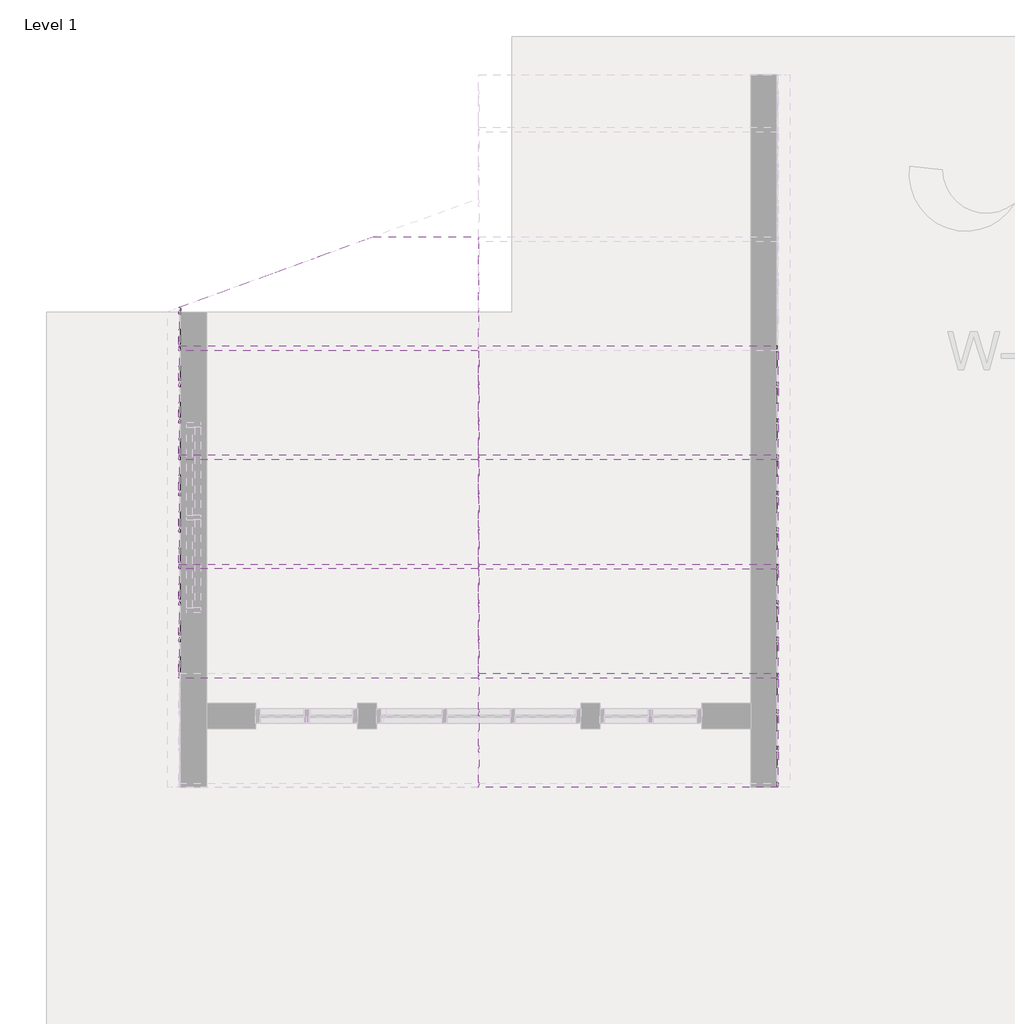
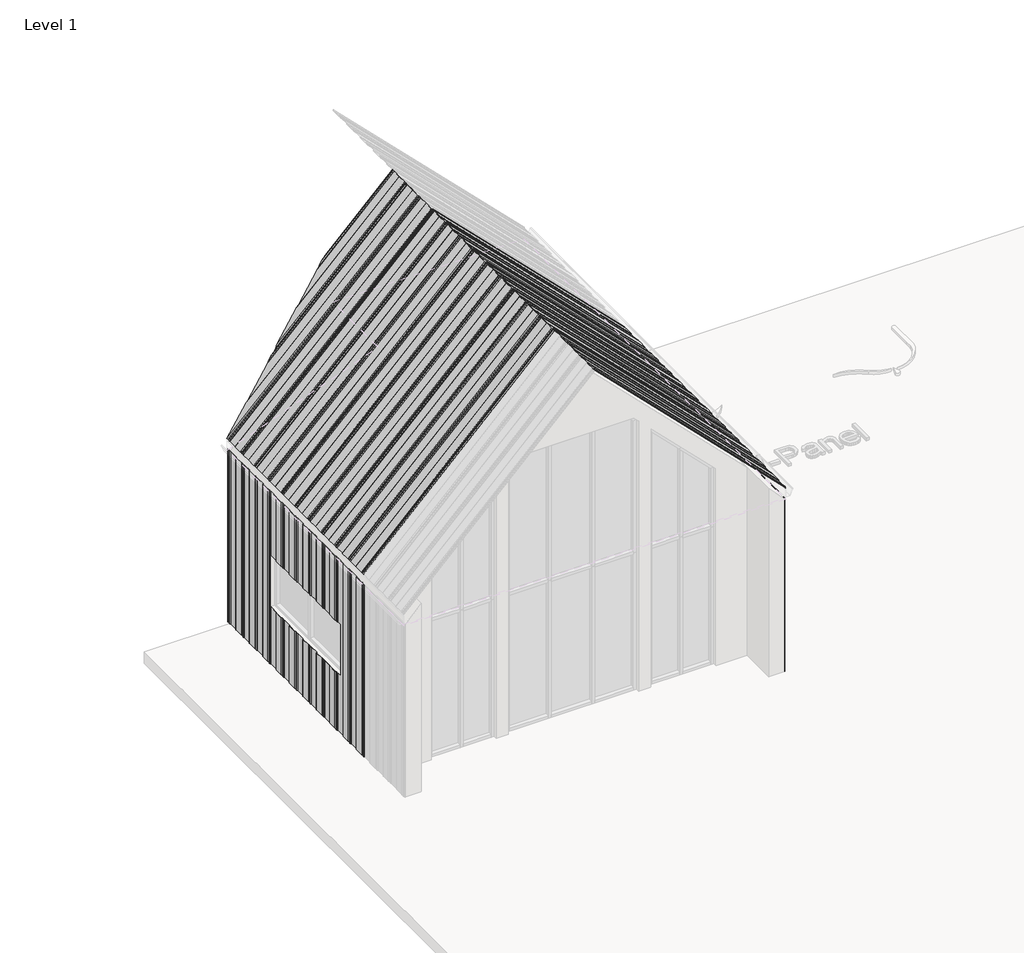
# One storey, part 3 of 9: 16 proxies.
"""IFC4 building model written with IfcOpenShell, lengths in millimetres."""

from ifc_helpers import new_model, si_unit, frame, origin, place, context, project, spatial, polyline, outline, extrude, faceted_brep, transform, mapped, element, save
from components import specialty_equipment_948620e5, specialty_equipment_76631281

model = new_model("IFC4")

# Units and contexts
model_context = context("Model", 3, world=origin())
ifc_project = project(units=[si_unit("LENGTHUNIT", "METRE", prefix="MILLI")], contexts=[model_context])

# Site, building, storey
site = spatial("IfcSite", under=ifc_project)
building = spatial("IfcBuilding", under=site)
storey = spatial("IfcBuildingStorey", under=building, Name="Level 1", Elevation=0.0)

# Proxies
placement = place(None, origin())
element("IfcBuildingElementProxy", 1, Name="AQUAPLAST - W-Panel : RR 32 BRĄZ", ObjectType="AQUAPLAST - W-Panel : RR 32 BRĄZ", at=placement, inside=storey, context=model_context, shape_type="SweptSolid", body=[
    extrude(outline(polyline([(0.0, -586.3438713), (10.0, -576.3438713), (10.0, -554.626294), (0.0, -544.626294), (0.0, -396.0417131), (10.0, -386.0417131), (10.0, -234.3241358), (0.0, -224.3241358), (0.0, -204.3241358), (10.0, -194.3241358), (10.0, -172.6065586), (0.0, -162.6065586), (0.0, -10.920379), (10.0, -0.920379), (10.0, 145.7971982), (0.0, 155.7971982), (0.0, 180.7971982), (10.0, 190.7971982), (10.0, 210.5370534), (0.0, 220.5370534), (0.0, 370.5370534), (10.0, 380.5370534), (10.0, 530.7135982), (0.5, 540.2135982), (0.5, 562.5464217), (10.5, 572.5464217), (10.5, 594.6782125), (4.6782125, 600.5), (5.4643393, 600.2138732), (11.0, 594.6782125), (11.0, 572.5464217), (1.0, 562.5464217), (1.0, 540.420705), (10.5, 530.920705), (10.5, 380.3299466), (0.5, 370.3299466), (0.5, 220.7441601), (10.5, 210.7441601), (10.5, 190.5900914), (0.5, 180.5900914), (0.5, 156.004305), (10.5, 146.004305), (10.5, -1.1274858), (0.5, -11.1274858), (0.5, -162.3994518), (10.5, -172.3994518), (10.5, -194.5312426), (0.5, -204.5312426), (0.5, -224.1170291), (10.5, -234.1170291), (10.5, -386.2488199), (0.5, -396.2488199), (0.5, -544.4191873), (10.5, -554.4191873), (10.5, -576.5509781), (0.5, -586.5509781), (0.5, -599.785926), (0.0, -600.5), (0.0, -586.3438713)])), frame((-2137.063183, 9264.5162138, 3795.9898987), z_axis=(-0.7071067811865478, 0.0, 0.7071067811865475), x_axis=(0.7071067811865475, 0.0, 0.7071067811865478)), (0.0, 0.0, 1.0), 4454.0),
])
element("IfcBuildingElementProxy", 2, Name="AQUAPLAST - W-Panel : RR 32 BRĄZ", ObjectType="AQUAPLAST - W-Panel : RR 32 BRĄZ", at=placement, inside=storey, context=model_context, shape_type="Brep", body=[
    faceted_brep([(-5287.6095796, 14447.2880323, 6945.4435021), (-5287.6095796, 14461.444161, 6945.4435021), (-5287.963133, 14460.730087, 6945.7970555), (-5287.963133, 14447.4951391, 6945.7970555), (-5295.0342008, 14437.4951391, 6952.8681233), (-5295.0342008, 14415.3633483, 6952.8681233), (-5287.963133, 14405.3633483, 6945.7970555), (-5287.963133, 14257.1929809, 6945.7970555), (-5295.0342008, 14247.1929809, 6952.8681233), (-5295.0342008, 14095.0611901, 6952.8681233), (-5287.963133, 14085.0611901, 6945.7970555), (-5287.963133, 14065.4754036, 6945.7970555), (-5295.0342008, 14055.4754036, 6952.8681233), (-5295.0342008, 14033.3436128, 6952.8681233), (-5287.963133, 14023.3436128, 6945.7970555), (-5287.963133, 13872.0716468, 6945.7970555), (-5295.0342008, 13862.0716468, 6952.8681233), (-5295.0342008, 13714.939856, 6952.8681233), (-5287.963133, 13704.939856, 6945.7970555), (-5287.963133, 13680.3540696, 6945.7970555), (-5295.0342008, 13670.3540696, 6952.8681233), (-5295.0342008, 13650.2000009, 6952.8681233), (-5287.963133, 13640.2000009, 6945.7970555), (-5287.963133, 13490.6142144, 6945.7970555), (-5295.0342008, 13480.6142144, 6952.8681233), (-5295.0342008, 13330.023456, 6952.8681233), (-5288.3166864, 13320.523456, 6946.1506089), (-5288.3166864, 13298.3977393, 6946.1506089), (-5295.3877542, 13288.3977393, 6953.2216767), (-5295.3877542, 13266.2659485, 6953.2216767), (-5291.473451, 13260.7302878, 6949.3073735), (-5290.9175754, 13260.444161, 6948.7514979), (-5295.0342008, 13266.2659485, 6952.8681233), (-5295.0342008, 13288.3977393, 6952.8681233), (-5287.963133, 13298.3977393, 6945.7970555), (-5287.963133, 13320.7305628, 6945.7970555), (-5294.6806474, 13330.2305628, 6952.5145699), (-5294.6806474, 13480.4071077, 6952.5145699), (-5287.6095796, 13490.4071077, 6945.4435021), (-5287.6095796, 13640.4071077, 6945.4435021), (-5294.6806474, 13650.4071077, 6952.5145699), (-5294.6806474, 13670.1469628, 6952.5145699), (-5287.6095796, 13680.1469628, 6945.4435021), (-5287.6095796, 13705.1469628, 6945.4435021), (-5294.6806474, 13715.1469628, 6952.5145699), (-5294.6806474, 13861.86454, 6952.5145699), (-5287.6095796, 13871.86454, 6945.4435021), (-5287.6095796, 14023.5507196, 6945.4435021), (-5294.6806474, 14033.5507196, 6952.5145699), (-5294.6806474, 14055.2682968, 6952.5145699), (-5287.6095796, 14065.2682968, 6945.4435021), (-5287.6095796, 14085.2682968, 6945.4435021), (-5294.6806474, 14095.2682968, 6952.5145699), (-5294.6806474, 14246.9858741, 6952.5145699), (-5287.6095796, 14256.9858741, 6945.4435021), (-5287.6095796, 14405.570455, 6945.4435021), (-5294.6806474, 14415.570455, 6952.5145699), (-5294.6806474, 14437.2880323, 6952.5145699), (-8444.1342508, 13715.1469628, 3803.0609665), (-8437.063183, 13705.1469628, 3795.9898987), (-8437.063183, 13680.1469628, 3795.9898987), (-8444.1342508, 13670.1469628, 3803.0609665), (-8444.1342508, 13650.4071077, 3803.0609665), (-8437.063183, 13640.4071077, 3795.9898987), (-8437.063183, 13490.4071077, 3795.9898987), (-8444.1342508, 13480.4071077, 3803.0609665), (-8444.1342508, 13330.2305628, 3803.0609665), (-8437.4167364, 13320.7305628, 3796.3434521), (-8437.4167364, 13298.3977393, 3796.3434521), (-8444.4878042, 13288.3977393, 3803.4145199), (-8444.4878042, 13266.2659485, 3803.4145199), (-8440.3711788, 13260.444161, 3799.2978945), (-8440.9270544, 13260.7302878, 3799.8537701), (-8444.8413576, 13266.2659485, 3803.7680733), (-8444.8413576, 13288.3977393, 3803.7680733), (-8437.7702898, 13298.3977393, 3796.6970055), (-8437.7702898, 13320.523456, 3796.6970055), (-8444.4878042, 13330.023456, 3803.4145199), (-8444.4878042, 13480.6142144, 3803.4145199), (-8437.4167364, 13490.6142144, 3796.3434521), (-8437.4167364, 13640.2000009, 3796.3434521), (-8444.4878042, 13650.2000009, 3803.4145199), (-8444.4878042, 13670.3540696, 3803.4145199), (-8437.4167364, 13680.3540696, 3796.3434521), (-8437.4167364, 13704.939856, 3796.3434521), (-8444.4878042, 13714.939856, 3803.4145199), (-8444.4878042, 13715.1929554, 3803.4145199), (-8444.1342508, 13715.3216383, 3803.0609665), (-6433.0731115, 14447.2880323, 5799.9799703), (-6394.1794674, 14461.444161, 5838.8736144), (-6396.1413696, 14460.730087, 5837.6188189), (-6432.5040903, 14447.4951391, 5801.2560983), (-6459.9788645, 14437.4951391, 5787.9234597), (-6520.78546, 14415.3633483, 5727.1168642), (-6548.2602342, 14405.3633483, 5685.4999544), (-6955.3549728, 14257.1929809, 5278.4052158), (-6982.8297469, 14247.1929809, 5265.0725772), (-7400.808407, 14095.0611901, 4847.0939171), (-7428.2831812, 14085.0611901, 4805.4770073), (-7482.0946872, 14065.4754036, 4751.6655013), (-7509.5694614, 14055.4754036, 4738.3328628), (-7570.3760569, 14033.3436128, 4677.5262672), (-7597.8508311, 14023.3436128, 4635.9093574), (-8013.4671419, 13872.0716468, 4220.2930467), (-8040.9419161, 13862.0716468, 4206.9604081), (-8041.5109373, 13861.86454, 4205.6842801), (-8014.0361631, 13871.86454, 4219.0169187), (-7597.2818099, 14023.5507196, 4635.7712718), (-7569.8070357, 14033.5507196, 4677.3881817), (-7510.1384826, 14055.2682968, 4737.0567348), (-7482.6637084, 14065.2682968, 4750.3893734), (-7427.71416, 14085.2682968, 4805.3389218), (-7400.2393858, 14095.2682968, 4846.9558316), (-6983.3987682, 14246.9858741, 5263.7964492), (-6955.923994, 14256.9858741, 5277.1290878), (-6547.691213, 14405.570455, 5685.3618688), (-6520.2164388, 14415.570455, 5726.9787786), (-6460.5478857, 14437.2880323, 5786.6473317)], [[[0, 1, 2, 3, 4, 5, 6, 7, 8, 9, 10, 11, 12, 13, 14, 15, 16, 17, 18, 19, 20, 21, 22, 23, 24, 25, 26, 27, 28, 29, 30, 31, 32, 33, 34, 35, 36, 37, 38, 39, 40, 41, 42, 43, 44, 45, 46, 47, 48, 49, 50, 51, 52, 53, 54, 55, 56, 57]], [[58, 59, 60, 61, 62, 63, 64, 65, 66, 67, 68, 69, 70, 71, 72, 73, 74, 75, 76, 77, 78, 79, 80, 81, 82, 83, 84, 85, 86, 87]], [[1, 0, 88, 89]], [[2, 1, 89, 90]], [[3, 2, 90, 91]], [[4, 3, 91, 92]], [[5, 4, 92, 93]], [[6, 5, 93, 94]], [[7, 6, 94, 95]], [[8, 7, 95, 96]], [[9, 8, 96, 97]], [[10, 9, 97, 98]], [[11, 10, 98, 99]], [[12, 11, 99, 100]], [[13, 12, 100, 101]], [[14, 13, 101, 102]], [[15, 14, 102, 103]], [[16, 15, 103, 104]], [[17, 16, 104, 86, 85]], [[18, 17, 85, 84]], [[19, 18, 84, 83]], [[20, 19, 83, 82]], [[21, 20, 82, 81]], [[22, 21, 81, 80]], [[23, 22, 80, 79]], [[24, 23, 79, 78]], [[25, 24, 78, 77]], [[26, 25, 77, 76]], [[27, 26, 76, 75]], [[28, 27, 75, 74]], [[29, 28, 74, 73]], [[30, 29, 73, 72]], [[31, 30, 72, 71]], [[32, 31, 71, 70]], [[33, 32, 70, 69]], [[34, 33, 69, 68]], [[35, 34, 68, 67]], [[36, 35, 67, 66]], [[37, 36, 66, 65]], [[38, 37, 65, 64]], [[39, 38, 64, 63]], [[40, 39, 63, 62]], [[41, 40, 62, 61]], [[42, 41, 61, 60]], [[43, 42, 60, 59]], [[44, 43, 59, 58]], [[45, 44, 58, 87, 105]], [[46, 45, 105, 106]], [[47, 46, 106, 107]], [[48, 47, 107, 108]], [[49, 48, 108, 109]], [[50, 49, 109, 110]], [[51, 50, 110, 111]], [[52, 51, 111, 112]], [[53, 52, 112, 113]], [[54, 53, 113, 114]], [[55, 54, 114, 115]], [[56, 55, 115, 116]], [[57, 56, 116, 117]], [[0, 57, 117, 88]], [[87, 86, 104, 103, 102, 101, 100, 99, 98, 97, 96, 95, 94, 93, 92, 91, 90, 89, 88, 117, 116, 115, 114, 113, 112, 111, 110, 109, 108, 107, 106, 105]]]),
])
element("IfcBuildingElementProxy", 3, Name="AQUAPLAST - W-Panel : RR 32 BRĄZ", ObjectType="AQUAPLAST - W-Panel : RR 32 BRĄZ", at=placement, inside=storey, context=model_context, shape_type="SweptSolid", body=[
    extrude(outline(polyline([(0.0, -586.3438713), (10.0, -576.3438713), (10.0, -554.626294), (0.0, -544.626294), (0.0, -396.0417131), (10.0, -386.0417131), (10.0, -234.3241358), (0.0, -224.3241358), (0.0, -204.3241358), (10.0, -194.3241358), (10.0, -172.6065586), (0.0, -162.6065586), (0.0, -10.920379), (10.0, -0.920379), (10.0, 145.7971982), (0.0, 155.7971982), (0.0, 180.7971982), (10.0, 190.7971982), (10.0, 210.5370534), (0.0, 220.5370534), (0.0, 370.5370534), (10.0, 380.5370534), (10.0, 530.7135982), (0.5, 540.2135982), (0.5, 562.5464217), (10.5, 572.5464217), (10.5, 594.6782125), (4.6782125, 600.5), (5.4643393, 600.2138732), (11.0, 594.6782125), (11.0, 572.5464217), (1.0, 562.5464217), (1.0, 540.420705), (10.5, 530.920705), (10.5, 380.3299466), (0.5, 370.3299466), (0.5, 220.7441601), (10.5, 210.7441601), (10.5, 190.5900914), (0.5, 180.5900914), (0.5, 156.004305), (10.5, 146.004305), (10.5, -1.1274858), (0.5, -11.1274858), (0.5, -162.3994518), (10.5, -172.3994518), (10.5, -194.5312426), (0.5, -204.5312426), (0.5, -224.1170291), (10.5, -234.1170291), (10.5, -386.2488199), (0.5, -396.2488199), (0.5, -544.4191873), (10.5, -554.4191873), (10.5, -576.5509781), (0.5, -586.5509781), (0.5, -599.785926), (0.0, -600.5), (0.0, -586.3438713)])), frame((-2137.063183, 10413.5162138, 3795.9898987), z_axis=(-0.7071067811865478, 0.0, 0.7071067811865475), x_axis=(0.7071067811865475, 0.0, 0.7071067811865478)), (0.0, 0.0, 1.0), 4454.0),
])
element("IfcBuildingElementProxy", 4, Name="AQUAPLAST - W-Panel : RR 32 BRĄZ", ObjectType="AQUAPLAST - W-Panel : RR 32 BRĄZ", at=placement, inside=storey, context=model_context, shape_type="SweptSolid", body=[
    extrude(outline(polyline([(0.0, -586.3438713), (10.0, -576.3438713), (10.0, -554.626294), (0.0, -544.626294), (0.0, -396.0417131), (10.0, -386.0417131), (10.0, -234.3241358), (0.0, -224.3241358), (0.0, -204.3241358), (10.0, -194.3241358), (10.0, -172.6065586), (0.0, -162.6065586), (0.0, -10.920379), (10.0, -0.920379), (10.0, 145.7971982), (0.0, 155.7971982), (0.0, 180.7971982), (10.0, 190.7971982), (10.0, 210.5370534), (0.0, 220.5370534), (0.0, 370.5370534), (10.0, 380.5370534), (10.0, 530.7135982), (0.5, 540.2135982), (0.5, 562.5464217), (10.5, 572.5464217), (10.5, 594.6782125), (4.6782125, 600.5), (5.4643393, 600.2138732), (11.0, 594.6782125), (11.0, 572.5464217), (1.0, 562.5464217), (1.0, 540.420705), (10.5, 530.920705), (10.5, 380.3299466), (0.5, 370.3299466), (0.5, 220.7441601), (10.5, 210.7441601), (10.5, 190.5900914), (0.5, 180.5900914), (0.5, 156.004305), (10.5, 146.004305), (10.5, -1.1274858), (0.5, -11.1274858), (0.5, -162.3994518), (10.5, -172.3994518), (10.5, -194.5312426), (0.5, -204.5312426), (0.5, -224.1170291), (10.5, -234.1170291), (10.5, -386.2488199), (0.5, -396.2488199), (0.5, -544.4191873), (10.5, -554.4191873), (10.5, -576.5509781), (0.5, -586.5509781), (0.5, -599.785926), (0.0, -600.5), (0.0, -586.3438713)])), frame((-2137.063183, 11562.5162138, 3795.9898987), z_axis=(-0.7071067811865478, 0.0, 0.7071067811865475), x_axis=(0.7071067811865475, 0.0, 0.7071067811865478)), (0.0, 0.0, 1.0), 4454.0),
])
element("IfcBuildingElementProxy", 5, Name="AQUAPLAST - W-Panel : RR 32 BRĄZ", ObjectType="AQUAPLAST - W-Panel : RR 32 BRĄZ", at=placement, inside=storey, context=model_context, shape_type="SweptSolid", body=[
    extrude(outline(polyline([(0.0, -586.3438713), (10.0, -576.3438713), (10.0, -554.626294), (0.0, -544.626294), (0.0, -396.0417131), (10.0, -386.0417131), (10.0, -234.3241358), (0.0, -224.3241358), (0.0, -204.3241358), (10.0, -194.3241358), (10.0, -172.6065586), (0.0, -162.6065586), (0.0, -10.920379), (10.0, -0.920379), (10.0, 145.7971982), (0.0, 155.7971982), (0.0, 180.7971982), (10.0, 190.7971982), (10.0, 210.5370534), (0.0, 220.5370534), (0.0, 370.5370534), (10.0, 380.5370534), (10.0, 530.7135982), (0.5, 540.2135982), (0.5, 562.5464217), (10.5, 572.5464217), (10.5, 594.6782125), (4.6782125, 600.5), (5.4643393, 600.2138732), (11.0, 594.6782125), (11.0, 572.5464217), (1.0, 562.5464217), (1.0, 540.420705), (10.5, 530.920705), (10.5, 380.3299466), (0.5, 370.3299466), (0.5, 220.7441601), (10.5, 210.7441601), (10.5, 190.5900914), (0.5, 180.5900914), (0.5, 156.004305), (10.5, 146.004305), (10.5, -1.1274858), (0.5, -11.1274858), (0.5, -162.3994518), (10.5, -172.3994518), (10.5, -194.5312426), (0.5, -204.5312426), (0.5, -224.1170291), (10.5, -234.1170291), (10.5, -386.2488199), (0.5, -396.2488199), (0.5, -544.4191873), (10.5, -554.4191873), (10.5, -576.5509781), (0.5, -586.5509781), (0.5, -599.785926), (0.0, -600.5), (0.0, -586.3438713)])), frame((-2137.063183, 12711.5162138, 3795.9898987), z_axis=(-0.7071067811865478, 0.0, 0.7071067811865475), x_axis=(0.7071067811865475, 0.0, 0.7071067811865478)), (0.0, 0.0, 1.0), 4454.0),
])
element("IfcBuildingElementProxy", 6, Name="AQUAPLAST - W-Panel : RR 887 CZEKOLADOWY BRĄZ", ObjectType="AQUAPLAST - W-Panel : RR 887 CZEKOLADOWY BRĄZ", at=placement, inside=storey, context=model_context, shape_type="Brep", body=[
    faceted_brep([(-8422.063183, 11000.574159, 3613.0), (-8422.063183, 11014.7302878, 3613.0), (-8422.563183, 11014.0162138, 3613.0), (-8422.563183, 11000.7812658, 3613.0), (-8432.563183, 10990.7812658, 3613.0), (-8432.563183, 10968.649475, 3613.0), (-8422.563183, 10958.649475, 3613.0), (-8422.563183, 10810.4791076, 3613.0), (-8432.563183, 10800.4791076, 3613.0), (-8432.563183, 10648.3473168, 3613.0), (-8422.563183, 10638.3473168, 3613.0), (-8422.563183, 10618.7615304, 3613.0), (-8432.563183, 10608.7615304, 3613.0), (-8432.563183, 10586.6297395, 3613.0), (-8422.563183, 10576.6297395, 3613.0), (-8422.563183, 10425.3577735, 3613.0), (-8432.563183, 10415.3577735, 3613.0), (-8432.563183, 10268.2259827, 3613.0), (-8422.563183, 10258.2259827, 3613.0), (-8422.563183, 10233.6401963, 3613.0), (-8432.563183, 10223.6401963, 3613.0), (-8432.563183, 10203.4861276, 3613.0), (-8422.563183, 10193.4861276, 3613.0), (-8422.563183, 10043.9003412, 3613.0), (-8432.563183, 10033.9003412, 3613.0), (-8432.563183, 9883.3095827, 3613.0), (-8423.063183, 9873.8095827, 3613.0), (-8423.063183, 9851.6838661, 3613.0), (-8433.063183, 9841.6838661, 3613.0), (-8433.063183, 9819.5520752, 3613.0), (-8427.5275223, 9814.0164145, 3613.0), (-8426.7413956, 9813.7302878, 3613.0), (-8432.563183, 9819.5520752, 3613.0), (-8432.563183, 9841.6838661, 3613.0), (-8422.563183, 9851.6838661, 3613.0), (-8422.563183, 9874.0166895, 3613.0), (-8432.063183, 9883.5166895, 3613.0), (-8432.063183, 10033.6932344, 3613.0), (-8422.063183, 10043.6932344, 3613.0), (-8422.063183, 10193.6932344, 3613.0), (-8432.063183, 10203.6932344, 3613.0), (-8432.063183, 10223.4330895, 3613.0), (-8422.063183, 10233.4330895, 3613.0), (-8422.063183, 10258.4330895, 3613.0), (-8432.063183, 10268.4330895, 3613.0), (-8432.063183, 10415.1506668, 3613.0), (-8422.063183, 10425.1506668, 3613.0), (-8422.063183, 10576.8368463, 3613.0), (-8432.063183, 10586.8368463, 3613.0), (-8432.063183, 10608.5544236, 3613.0), (-8422.063183, 10618.5544236, 3613.0), (-8422.063183, 10638.5544236, 3613.0), (-8432.063183, 10648.5544236, 3613.0), (-8432.063183, 10800.2720008, 3613.0), (-8422.063183, 10810.2720008, 3613.0), (-8422.063183, 10958.8565818, 3613.0), (-8432.063183, 10968.8565818, 3613.0), (-8432.063183, 10990.574159, 3613.0), (-8422.063183, 11000.574159, 600.0), (-8432.063183, 10990.574159, 600.0), (-8432.063183, 10968.8565818, 600.0), (-8422.063183, 10958.8565818, 600.0), (-8422.063183, 10810.2720008, 600.0), (-8432.063183, 10800.2720008, 600.0), (-8432.063183, 10648.5544236, 600.0), (-8422.063183, 10638.5544236, 600.0), (-8422.063183, 10618.5544236, 600.0), (-8432.063183, 10608.5544236, 600.0), (-8432.063183, 10586.8368463, 600.0), (-8422.063183, 10576.8368463, 600.0), (-8422.063183, 10425.1506668, 600.0), (-8432.063183, 10415.1506668, 600.0), (-8432.063183, 10268.4330895, 600.0), (-8422.063183, 10258.4330895, 600.0), (-8422.063183, 10233.4330895, 600.0), (-8432.063183, 10223.4330895, 600.0), (-8432.063183, 10203.6932344, 600.0), (-8422.063183, 10193.6932344, 600.0), (-8422.063183, 10043.6932344, 600.0), (-8432.063183, 10033.6932344, 600.0), (-8432.063183, 9883.5166895, 600.0), (-8422.563183, 9874.0166895, 600.0), (-8422.563183, 9851.6838661, 600.0), (-8432.563183, 9841.6838661, 600.0), (-8432.563183, 9819.5520752, 600.0), (-8426.7413956, 9813.7302878, 600.0), (-8427.5275223, 9814.0164145, 600.0), (-8433.063183, 9819.5520752, 600.0), (-8433.063183, 9841.6838661, 600.0), (-8423.063183, 9851.6838661, 600.0), (-8423.063183, 9873.8095827, 600.0), (-8432.563183, 9883.3095827, 600.0), (-8432.563183, 10033.9003412, 600.0), (-8422.563183, 10043.9003412, 600.0), (-8422.563183, 10193.4861276, 600.0), (-8432.563183, 10203.4861276, 600.0), (-8432.563183, 10223.6401963, 600.0), (-8422.563183, 10233.6401963, 600.0), (-8422.563183, 10258.2259827, 600.0), (-8432.563183, 10268.2259827, 600.0), (-8432.563183, 10415.3577735, 600.0), (-8422.563183, 10425.3577735, 600.0), (-8422.563183, 10576.6297395, 600.0), (-8432.563183, 10586.6297395, 600.0), (-8432.563183, 10608.7615304, 600.0), (-8422.563183, 10618.7615304, 600.0), (-8422.563183, 10638.3473168, 600.0), (-8432.563183, 10648.3473168, 600.0), (-8432.563183, 10800.4791076, 600.0), (-8422.563183, 10810.4791076, 600.0), (-8422.563183, 10958.649475, 600.0), (-8432.563183, 10968.649475, 600.0), (-8432.563183, 10990.7812658, 600.0), (-8422.563183, 11000.7812658, 600.0), (-8422.563183, 11014.0162138, 600.0), (-8422.063183, 11014.7302878, 600.0), (-8422.063183, 11000.574159, 2498.0), (-8422.063183, 11014.7302878, 2498.0), (-8422.063183, 11014.7302878, 1598.0), (-8422.063183, 11000.574159, 1598.0), (-8422.563183, 11014.0162138, 2498.0), (-8422.563183, 11014.0162138, 1598.0), (-8422.563183, 11000.7812658, 2498.0), (-8422.563183, 11000.7812658, 1598.0), (-8432.563183, 10990.7812658, 2498.0), (-8432.563183, 10990.7812658, 1598.0), (-8432.563183, 10968.649475, 2498.0), (-8432.563183, 10968.649475, 1598.0), (-8422.563183, 10958.649475, 2498.0), (-8422.563183, 10958.649475, 1598.0), (-8422.563183, 10810.4791076, 2498.0), (-8422.563183, 10810.4791076, 1598.0), (-8432.563183, 10800.4791076, 2498.0), (-8432.563183, 10800.4791076, 1598.0), (-8432.563183, 10648.3473168, 2498.0), (-8432.563183, 10648.3473168, 1598.0), (-8422.563183, 10638.3473168, 2498.0), (-8422.563183, 10638.3473168, 1598.0), (-8422.563183, 10618.7615304, 2498.0), (-8422.563183, 10618.7615304, 1598.0), (-8432.563183, 10608.7615304, 2498.0), (-8432.563183, 10608.7615304, 1598.0), (-8432.563183, 10586.6297395, 2498.0), (-8432.563183, 10586.6297395, 1598.0), (-8422.563183, 10576.6297395, 2498.0), (-8422.563183, 10576.6297395, 1598.0), (-8422.563183, 10504.7302878, 2498.0), (-8422.563183, 10504.7302878, 1598.0), (-8422.063183, 10576.8368463, 1598.0), (-8422.063183, 10504.7302878, 1598.0), (-8422.063183, 10504.7302878, 2498.0), (-8422.063183, 10576.8368463, 2498.0), (-8432.063183, 10586.8368463, 2498.0), (-8432.063183, 10586.8368463, 1598.0), (-8432.063183, 10608.5544236, 2498.0), (-8432.063183, 10608.5544236, 1598.0), (-8422.063183, 10618.5544236, 2498.0), (-8422.063183, 10618.5544236, 1598.0), (-8422.063183, 10638.5544236, 2498.0), (-8422.063183, 10638.5544236, 1598.0), (-8432.063183, 10648.5544236, 2498.0), (-8432.063183, 10648.5544236, 1598.0), (-8432.063183, 10800.2720008, 2498.0), (-8432.063183, 10800.2720008, 1598.0), (-8422.063183, 10810.2720008, 2498.0), (-8422.063183, 10810.2720008, 1598.0), (-8422.063183, 10958.8565818, 2498.0), (-8422.063183, 10958.8565818, 1598.0), (-8432.063183, 10968.8565818, 2498.0), (-8432.063183, 10968.8565818, 1598.0), (-8432.063183, 10990.574159, 2498.0), (-8432.063183, 10990.574159, 1598.0)], [[[0, 1, 2, 3, 4, 5, 6, 7, 8, 9, 10, 11, 12, 13, 14, 15, 16, 17, 18, 19, 20, 21, 22, 23, 24, 25, 26, 27, 28, 29, 30, 31, 32, 33, 34, 35, 36, 37, 38, 39, 40, 41, 42, 43, 44, 45, 46, 47, 48, 49, 50, 51, 52, 53, 54, 55, 56, 57]], [[58, 59, 60, 61, 62, 63, 64, 65, 66, 67, 68, 69, 70, 71, 72, 73, 74, 75, 76, 77, 78, 79, 80, 81, 82, 83, 84, 85, 86, 87, 88, 89, 90, 91, 92, 93, 94, 95, 96, 97, 98, 99, 100, 101, 102, 103, 104, 105, 106, 107, 108, 109, 110, 111, 112, 113, 114, 115]], [[1, 0, 116, 117]], [[58, 115, 118, 119]], [[2, 1, 117, 120]], [[115, 114, 121, 118]], [[3, 2, 120, 122]], [[114, 113, 123, 121]], [[4, 3, 122, 124]], [[113, 112, 125, 123]], [[5, 4, 124, 126]], [[112, 111, 127, 125]], [[6, 5, 126, 128]], [[111, 110, 129, 127]], [[7, 6, 128, 130]], [[110, 109, 131, 129]], [[8, 7, 130, 132]], [[109, 108, 133, 131]], [[9, 8, 132, 134]], [[108, 107, 135, 133]], [[10, 9, 134, 136]], [[107, 106, 137, 135]], [[11, 10, 136, 138]], [[106, 105, 139, 137]], [[12, 11, 138, 140]], [[105, 104, 141, 139]], [[13, 12, 140, 142]], [[104, 103, 143, 141]], [[14, 13, 142, 144]], [[103, 102, 145, 143]], [[15, 14, 144, 146, 147, 145, 102, 101]], [[16, 15, 101, 100]], [[17, 16, 100, 99]], [[18, 17, 99, 98]], [[19, 18, 98, 97]], [[20, 19, 97, 96]], [[21, 20, 96, 95]], [[22, 21, 95, 94]], [[23, 22, 94, 93]], [[24, 23, 93, 92]], [[25, 24, 92, 91]], [[26, 25, 91, 90]], [[27, 26, 90, 89]], [[28, 27, 89, 88]], [[29, 28, 88, 87]], [[30, 29, 87, 86]], [[31, 30, 86, 85]], [[32, 31, 85, 84]], [[33, 32, 84, 83]], [[34, 33, 83, 82]], [[35, 34, 82, 81]], [[36, 35, 81, 80]], [[37, 36, 80, 79]], [[38, 37, 79, 78]], [[39, 38, 78, 77]], [[40, 39, 77, 76]], [[41, 40, 76, 75]], [[42, 41, 75, 74]], [[43, 42, 74, 73]], [[44, 43, 73, 72]], [[45, 44, 72, 71]], [[46, 45, 71, 70]], [[47, 46, 70, 69, 148, 149, 150, 151]], [[48, 47, 151, 152]], [[69, 68, 153, 148]], [[49, 48, 152, 154]], [[68, 67, 155, 153]], [[50, 49, 154, 156]], [[67, 66, 157, 155]], [[51, 50, 156, 158]], [[66, 65, 159, 157]], [[52, 51, 158, 160]], [[65, 64, 161, 159]], [[53, 52, 160, 162]], [[64, 63, 163, 161]], [[54, 53, 162, 164]], [[63, 62, 165, 163]], [[55, 54, 164, 166]], [[62, 61, 167, 165]], [[56, 55, 166, 168]], [[61, 60, 169, 167]], [[57, 56, 168, 170]], [[60, 59, 171, 169]], [[0, 57, 170, 116]], [[59, 58, 119, 171]], [[150, 146, 144, 142, 140, 138, 136, 134, 132, 130, 128, 126, 124, 122, 120, 117, 116, 170, 168, 166, 164, 162, 160, 158, 156, 154, 152, 151]], [[146, 150, 149, 147]], [[147, 149, 148, 153, 155, 157, 159, 161, 163, 165, 167, 169, 171, 119, 118, 121, 123, 125, 127, 129, 131, 133, 135, 137, 139, 141, 143, 145]]]),
])
element("IfcBuildingElementProxy", 7, Name="AQUAPLAST - W-Panel : RR 887 CZEKOLADOWY BRĄZ", ObjectType="AQUAPLAST - W-Panel : RR 887 CZEKOLADOWY BRĄZ", at=placement, inside=storey, context=model_context, shape_type="SweptSolid", body=[
    extrude(outline(polyline([(-8422.063183, 12163.7302878), (-8422.063183, 12149.574159), (-8432.063183, 12139.574159), (-8432.063183, 12117.8565818), (-8422.063183, 12107.8565818), (-8422.063183, 11959.2720008), (-8432.063183, 11949.2720008), (-8432.063183, 11797.5544236), (-8422.063183, 11787.5544236), (-8422.063183, 11767.5544236), (-8432.063183, 11757.5544236), (-8432.063183, 11735.8368463), (-8422.063183, 11725.8368463), (-8422.063183, 11574.1506668), (-8432.063183, 11564.1506668), (-8432.063183, 11417.4330895), (-8422.063183, 11407.4330895), (-8422.063183, 11382.4330895), (-8432.063183, 11372.4330895), (-8432.063183, 11352.6932344), (-8422.063183, 11342.6932344), (-8422.063183, 11192.6932344), (-8432.063183, 11182.6932344), (-8432.063183, 11032.5166895), (-8422.563183, 11023.0166895), (-8422.563183, 11000.6838661), (-8432.563183, 10990.6838661), (-8432.563183, 10968.5520752), (-8426.7413956, 10962.7302878), (-8427.5275223, 10963.0164145), (-8433.063183, 10968.5520752), (-8433.063183, 10990.6838661), (-8423.063183, 11000.6838661), (-8423.063183, 11022.8095827), (-8432.563183, 11032.3095827), (-8432.563183, 11182.9003412), (-8422.563183, 11192.9003412), (-8422.563183, 11342.4861276), (-8432.563183, 11352.4861276), (-8432.563183, 11372.6401963), (-8422.563183, 11382.6401963), (-8422.563183, 11407.2259827), (-8432.563183, 11417.2259827), (-8432.563183, 11564.3577735), (-8422.563183, 11574.3577735), (-8422.563183, 11725.6297395), (-8432.563183, 11735.6297395), (-8432.563183, 11757.7615304), (-8422.563183, 11767.7615304), (-8422.563183, 11787.3473168), (-8432.563183, 11797.3473168), (-8432.563183, 11949.4791076), (-8422.563183, 11959.4791076), (-8422.563183, 12107.649475), (-8432.563183, 12117.649475), (-8432.563183, 12139.7812658), (-8422.563183, 12149.7812658), (-8422.563183, 12163.0162138), (-8422.063183, 12163.7302878)])), frame((0.0, 0.0, 2498.0), z_axis=(0.0, 0.0, 1.0), x_axis=(1.0, 0.0, 0.0)), (0.0, 0.0, 1.0), 1115.0),
    extrude(outline(polyline([(-8422.063183, 12149.574159), (-8432.063183, 12139.574159), (-8432.063183, 12117.8565818), (-8422.063183, 12107.8565818), (-8422.063183, 11959.2720008), (-8432.063183, 11949.2720008), (-8432.063183, 11797.5544236), (-8422.063183, 11787.5544236), (-8422.063183, 11767.5544236), (-8432.063183, 11757.5544236), (-8432.063183, 11735.8368463), (-8422.063183, 11725.8368463), (-8422.063183, 11574.1506668), (-8432.063183, 11564.1506668), (-8432.063183, 11417.4330895), (-8422.063183, 11407.4330895), (-8422.063183, 11382.4330895), (-8432.063183, 11372.4330895), (-8432.063183, 11352.6932344), (-8422.063183, 11342.6932344), (-8422.063183, 11192.6932344), (-8432.063183, 11182.6932344), (-8432.063183, 11032.5166895), (-8422.563183, 11023.0166895), (-8422.563183, 11000.6838661), (-8432.563183, 10990.6838661), (-8432.563183, 10968.5520752), (-8426.7413956, 10962.7302878), (-8427.5275223, 10963.0164145), (-8433.063183, 10968.5520752), (-8433.063183, 10990.6838661), (-8423.063183, 11000.6838661), (-8423.063183, 11022.8095827), (-8432.563183, 11032.3095827), (-8432.563183, 11182.9003412), (-8422.563183, 11192.9003412), (-8422.563183, 11342.4861276), (-8432.563183, 11352.4861276), (-8432.563183, 11372.6401963), (-8422.563183, 11382.6401963), (-8422.563183, 11407.2259827), (-8432.563183, 11417.2259827), (-8432.563183, 11564.3577735), (-8422.563183, 11574.3577735), (-8422.563183, 11725.6297395), (-8432.563183, 11735.6297395), (-8432.563183, 11757.7615304), (-8422.563183, 11767.7615304), (-8422.563183, 11787.3473168), (-8432.563183, 11797.3473168), (-8432.563183, 11949.4791076), (-8422.563183, 11959.4791076), (-8422.563183, 12107.649475), (-8432.563183, 12117.649475), (-8432.563183, 12139.7812658), (-8422.563183, 12149.7812658), (-8422.563183, 12163.0162138), (-8422.063183, 12163.7302878), (-8422.063183, 12149.574159)])), frame((0.0, 0.0, 600.0), z_axis=(0.0, 0.0, 1.0), x_axis=(1.0, 0.0, 0.0)), (0.0, 0.0, 1.0), 998.0),
])
element("IfcBuildingElementProxy", 8, Name="AQUAPLAST - W-Panel : RR 887 CZEKOLADOWY BRĄZ", ObjectType="AQUAPLAST - W-Panel : RR 887 CZEKOLADOWY BRĄZ", at=placement, inside=storey, context=model_context, shape_type="Brep", body=[
    faceted_brep([(-8422.063183, 13298.574159, 3613.0), (-8422.063183, 13312.7302878, 3613.0), (-8422.563183, 13312.0162138, 3613.0), (-8422.563183, 13298.7812658, 3613.0), (-8432.563183, 13288.7812658, 3613.0), (-8432.563183, 13266.649475, 3613.0), (-8422.563183, 13256.649475, 3613.0), (-8422.563183, 13108.4791076, 3613.0), (-8432.563183, 13098.4791076, 3613.0), (-8432.563183, 12946.3473168, 3613.0), (-8422.563183, 12936.3473168, 3613.0), (-8422.563183, 12916.7615304, 3613.0), (-8432.563183, 12906.7615304, 3613.0), (-8432.563183, 12884.6297395, 3613.0), (-8422.563183, 12874.6297395, 3613.0), (-8422.563183, 12723.3577735, 3613.0), (-8432.563183, 12713.3577735, 3613.0), (-8432.563183, 12566.2259827, 3613.0), (-8422.563183, 12556.2259827, 3613.0), (-8422.563183, 12531.6401963, 3613.0), (-8432.563183, 12521.6401963, 3613.0), (-8432.563183, 12501.4861276, 3613.0), (-8422.563183, 12491.4861276, 3613.0), (-8422.563183, 12341.9003412, 3613.0), (-8432.563183, 12331.9003412, 3613.0), (-8432.563183, 12181.3095827, 3613.0), (-8423.063183, 12171.8095827, 3613.0), (-8423.063183, 12149.6838661, 3613.0), (-8433.063183, 12139.6838661, 3613.0), (-8433.063183, 12117.5520752, 3613.0), (-8427.5275223, 12112.0164145, 3613.0), (-8426.7413956, 12111.7302878, 3613.0), (-8432.563183, 12117.5520752, 3613.0), (-8432.563183, 12139.6838661, 3613.0), (-8422.563183, 12149.6838661, 3613.0), (-8422.563183, 12172.0166895, 3613.0), (-8432.063183, 12181.5166895, 3613.0), (-8432.063183, 12331.6932344, 3613.0), (-8422.063183, 12341.6932344, 3613.0), (-8422.063183, 12491.6932344, 3613.0), (-8432.063183, 12501.6932344, 3613.0), (-8432.063183, 12521.4330895, 3613.0), (-8422.063183, 12531.4330895, 3613.0), (-8422.063183, 12556.4330895, 3613.0), (-8432.063183, 12566.4330895, 3613.0), (-8432.063183, 12713.1506668, 3613.0), (-8422.063183, 12723.1506668, 3613.0), (-8422.063183, 12874.8368463, 3613.0), (-8432.063183, 12884.8368463, 3613.0), (-8432.063183, 12906.5544236, 3613.0), (-8422.063183, 12916.5544236, 3613.0), (-8422.063183, 12936.5544236, 3613.0), (-8432.063183, 12946.5544236, 3613.0), (-8432.063183, 13098.2720008, 3613.0), (-8422.063183, 13108.2720008, 3613.0), (-8422.063183, 13256.8565818, 3613.0), (-8432.063183, 13266.8565818, 3613.0), (-8432.063183, 13288.574159, 3613.0), (-8422.063183, 13298.574159, 600.0), (-8432.063183, 13288.574159, 600.0), (-8432.063183, 13266.8565818, 600.0), (-8422.063183, 13256.8565818, 600.0), (-8422.063183, 13108.2720008, 600.0), (-8432.063183, 13098.2720008, 600.0), (-8432.063183, 12946.5544236, 600.0), (-8422.063183, 12936.5544236, 600.0), (-8422.063183, 12916.5544236, 600.0), (-8432.063183, 12906.5544236, 600.0), (-8432.063183, 12884.8368463, 600.0), (-8422.063183, 12874.8368463, 600.0), (-8422.063183, 12723.1506668, 600.0), (-8432.063183, 12713.1506668, 600.0), (-8432.063183, 12566.4330895, 600.0), (-8422.063183, 12556.4330895, 600.0), (-8422.063183, 12531.4330895, 600.0), (-8432.063183, 12521.4330895, 600.0), (-8432.063183, 12501.6932344, 600.0), (-8422.063183, 12491.6932344, 600.0), (-8422.063183, 12341.6932344, 600.0), (-8432.063183, 12331.6932344, 600.0), (-8432.063183, 12181.5166895, 600.0), (-8422.563183, 12172.0166895, 600.0), (-8422.563183, 12149.6838661, 600.0), (-8432.563183, 12139.6838661, 600.0), (-8432.563183, 12117.5520752, 600.0), (-8426.7413956, 12111.7302878, 600.0), (-8427.5275223, 12112.0164145, 600.0), (-8433.063183, 12117.5520752, 600.0), (-8433.063183, 12139.6838661, 600.0), (-8423.063183, 12149.6838661, 600.0), (-8423.063183, 12171.8095827, 600.0), (-8432.563183, 12181.3095827, 600.0), (-8432.563183, 12331.9003412, 600.0), (-8422.563183, 12341.9003412, 600.0), (-8422.563183, 12491.4861276, 600.0), (-8432.563183, 12501.4861276, 600.0), (-8432.563183, 12521.6401963, 600.0), (-8422.563183, 12531.6401963, 600.0), (-8422.563183, 12556.2259827, 600.0), (-8432.563183, 12566.2259827, 600.0), (-8432.563183, 12713.3577735, 600.0), (-8422.563183, 12723.3577735, 600.0), (-8422.563183, 12874.6297395, 600.0), (-8432.563183, 12884.6297395, 600.0), (-8432.563183, 12906.7615304, 600.0), (-8422.563183, 12916.7615304, 600.0), (-8422.563183, 12936.3473168, 600.0), (-8432.563183, 12946.3473168, 600.0), (-8432.563183, 13098.4791076, 600.0), (-8422.563183, 13108.4791076, 600.0), (-8422.563183, 13256.649475, 600.0), (-8432.563183, 13266.649475, 600.0), (-8432.563183, 13288.7812658, 600.0), (-8422.563183, 13298.7812658, 600.0), (-8422.563183, 13312.0162138, 600.0), (-8422.063183, 13312.7302878, 600.0), (-8432.563183, 12501.4861276, 1598.0), (-8432.563183, 12504.7302878, 1598.0), (-8432.563183, 12504.7302878, 2498.0), (-8432.563183, 12501.4861276, 2498.0), (-8422.563183, 12491.4861276, 2498.0), (-8422.563183, 12491.4861276, 1598.0), (-8422.563183, 12341.9003412, 2498.0), (-8422.563183, 12341.9003412, 1598.0), (-8432.563183, 12331.9003412, 2498.0), (-8432.563183, 12331.9003412, 1598.0), (-8432.563183, 12181.3095827, 2498.0), (-8432.563183, 12181.3095827, 1598.0), (-8423.063183, 12171.8095827, 2498.0), (-8423.063183, 12171.8095827, 1598.0), (-8423.063183, 12149.6838661, 2498.0), (-8423.063183, 12149.6838661, 1598.0), (-8433.063183, 12139.6838661, 2498.0), (-8433.063183, 12139.6838661, 1598.0), (-8433.063183, 12117.5520752, 2498.0), (-8433.063183, 12117.5520752, 1598.0), (-8427.5275223, 12112.0164145, 2498.0), (-8427.5275223, 12112.0164145, 1598.0), (-8426.7413956, 12111.7302878, 2498.0), (-8426.7413956, 12111.7302878, 1598.0), (-8432.563183, 12117.5520752, 2498.0), (-8432.563183, 12117.5520752, 1598.0), (-8432.563183, 12139.6838661, 2498.0), (-8432.563183, 12139.6838661, 1598.0), (-8422.563183, 12149.6838661, 2498.0), (-8422.563183, 12149.6838661, 1598.0), (-8422.563183, 12172.0166895, 2498.0), (-8422.563183, 12172.0166895, 1598.0), (-8432.063183, 12181.5166895, 2498.0), (-8432.063183, 12181.5166895, 1598.0), (-8432.063183, 12331.6932344, 2498.0), (-8432.063183, 12331.6932344, 1598.0), (-8422.063183, 12341.6932344, 2498.0), (-8422.063183, 12341.6932344, 1598.0), (-8422.063183, 12491.6932344, 2498.0), (-8422.063183, 12491.6932344, 1598.0), (-8432.063183, 12501.6932344, 2498.0), (-8432.063183, 12501.6932344, 1598.0), (-8432.063183, 12504.7302878, 2498.0), (-8432.063183, 12504.7302878, 1598.0)], [[[0, 1, 2, 3, 4, 5, 6, 7, 8, 9, 10, 11, 12, 13, 14, 15, 16, 17, 18, 19, 20, 21, 22, 23, 24, 25, 26, 27, 28, 29, 30, 31, 32, 33, 34, 35, 36, 37, 38, 39, 40, 41, 42, 43, 44, 45, 46, 47, 48, 49, 50, 51, 52, 53, 54, 55, 56, 57]], [[58, 59, 60, 61, 62, 63, 64, 65, 66, 67, 68, 69, 70, 71, 72, 73, 74, 75, 76, 77, 78, 79, 80, 81, 82, 83, 84, 85, 86, 87, 88, 89, 90, 91, 92, 93, 94, 95, 96, 97, 98, 99, 100, 101, 102, 103, 104, 105, 106, 107, 108, 109, 110, 111, 112, 113, 114, 115]], [[1, 0, 58, 115]], [[2, 1, 115, 114]], [[3, 2, 114, 113]], [[4, 3, 113, 112]], [[5, 4, 112, 111]], [[6, 5, 111, 110]], [[7, 6, 110, 109]], [[8, 7, 109, 108]], [[9, 8, 108, 107]], [[10, 9, 107, 106]], [[11, 10, 106, 105]], [[12, 11, 105, 104]], [[13, 12, 104, 103]], [[14, 13, 103, 102]], [[15, 14, 102, 101]], [[16, 15, 101, 100]], [[17, 16, 100, 99]], [[18, 17, 99, 98]], [[19, 18, 98, 97]], [[20, 19, 97, 96]], [[21, 20, 96, 95, 116, 117, 118, 119]], [[22, 21, 119, 120]], [[95, 94, 121, 116]], [[23, 22, 120, 122]], [[94, 93, 123, 121]], [[24, 23, 122, 124]], [[93, 92, 125, 123]], [[25, 24, 124, 126]], [[92, 91, 127, 125]], [[26, 25, 126, 128]], [[91, 90, 129, 127]], [[27, 26, 128, 130]], [[90, 89, 131, 129]], [[28, 27, 130, 132]], [[89, 88, 133, 131]], [[29, 28, 132, 134]], [[88, 87, 135, 133]], [[30, 29, 134, 136]], [[87, 86, 137, 135]], [[31, 30, 136, 138]], [[86, 85, 139, 137]], [[32, 31, 138, 140]], [[85, 84, 141, 139]], [[33, 32, 140, 142]], [[84, 83, 143, 141]], [[34, 33, 142, 144]], [[83, 82, 145, 143]], [[35, 34, 144, 146]], [[82, 81, 147, 145]], [[36, 35, 146, 148]], [[81, 80, 149, 147]], [[37, 36, 148, 150]], [[80, 79, 151, 149]], [[38, 37, 150, 152]], [[79, 78, 153, 151]], [[39, 38, 152, 154]], [[78, 77, 155, 153]], [[40, 39, 154, 156]], [[77, 76, 157, 155]], [[41, 40, 156, 158, 159, 157, 76, 75]], [[42, 41, 75, 74]], [[43, 42, 74, 73]], [[44, 43, 73, 72]], [[45, 44, 72, 71]], [[46, 45, 71, 70]], [[47, 46, 70, 69]], [[48, 47, 69, 68]], [[49, 48, 68, 67]], [[50, 49, 67, 66]], [[51, 50, 66, 65]], [[52, 51, 65, 64]], [[53, 52, 64, 63]], [[54, 53, 63, 62]], [[55, 54, 62, 61]], [[56, 55, 61, 60]], [[57, 56, 60, 59]], [[0, 57, 59, 58]], [[117, 159, 158, 118]], [[118, 158, 156, 154, 152, 150, 148, 146, 144, 142, 140, 138, 136, 134, 132, 130, 128, 126, 124, 122, 120, 119]], [[159, 117, 116, 121, 123, 125, 127, 129, 131, 133, 135, 137, 139, 141, 143, 145, 147, 149, 151, 153, 155, 157]]]),
])
element("IfcBuildingElementProxy", 9, Name="AQUAPLAST - W-Panel : RR 887 CZEKOLADOWY BRĄZ", ObjectType="AQUAPLAST - W-Panel : RR 887 CZEKOLADOWY BRĄZ", at=placement, inside=storey, context=model_context, shape_type="SweptSolid", body=[
    extrude(outline(polyline([(-8432.063183, 13715.4330895), (-8422.063183, 13705.4330895), (-8422.063183, 13680.4330895), (-8432.063183, 13670.4330895), (-8432.063183, 13650.6932344), (-8422.063183, 13640.6932344), (-8422.063183, 13490.6932344), (-8432.063183, 13480.6932344), (-8432.063183, 13330.5166895), (-8422.563183, 13321.0166895), (-8422.563183, 13298.6838661), (-8432.563183, 13288.6838661), (-8432.563183, 13266.5520752), (-8426.7413956, 13260.7302878), (-8427.5275223, 13261.0164145), (-8433.063183, 13266.5520752), (-8433.063183, 13288.6838661), (-8423.063183, 13298.6838661), (-8423.063183, 13320.8095827), (-8432.563183, 13330.3095827), (-8432.563183, 13480.9003412), (-8422.563183, 13490.9003412), (-8422.563183, 13640.4861276), (-8432.563183, 13650.4861276), (-8432.563183, 13670.6401963), (-8422.563183, 13680.6401963), (-8422.563183, 13705.2259827), (-8432.563183, 13715.2259827), (-8432.563183, 13719.5331625), (-8432.063183, 13719.7151477), (-8432.063183, 13715.4330895)])), frame((0.0, 0.0, 600.0), z_axis=(0.0, 0.0, 1.0), x_axis=(1.0, 0.0, 0.0)), (0.0, 0.0, 1.0), 3013.0),
])
specialty_equipment_shape = specialty_equipment_948620e5(model_context)
element("IfcBuildingElementProxy", 10, Name="AQUAPLAST - W-Panel : RR 32 BRĄZ", ObjectType="AQUAPLAST - W-Panel : RR 32 BRĄZ", at=placement, inside=storey, context=model_context, shape_type="MappedRepresentation", body=[
    mapped(specialty_equipment_shape, transform((-8437.063183, 10412.344161, 3795.9898987), x_axis=(0.0, -1.0, 0.0), y_axis=(0.7071067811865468, 0.0, 0.7071067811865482), z_axis=(-0.7071067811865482, 0.0, 0.7071067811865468))),
])
element("IfcBuildingElementProxy", 11, Name="AQUAPLAST - W-Panel : RR 32 BRĄZ", ObjectType="AQUAPLAST - W-Panel : RR 32 BRĄZ", at=placement, inside=storey, context=model_context, shape_type="MappedRepresentation", body=[
    mapped(specialty_equipment_shape, transform((-8437.063183, 11561.344161, 3795.9898987), x_axis=(0.0, -1.0, 0.0), y_axis=(0.7071067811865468, 0.0, 0.7071067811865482), z_axis=(-0.7071067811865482, 0.0, 0.7071067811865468))),
])
element("IfcBuildingElementProxy", 12, Name="AQUAPLAST - W-Panel : RR 32 BRĄZ", ObjectType="AQUAPLAST - W-Panel : RR 32 BRĄZ", at=placement, inside=storey, context=model_context, shape_type="MappedRepresentation", body=[
    mapped(specialty_equipment_shape, transform((-8437.063183, 12710.344161, 3795.9898987), x_axis=(0.0, -1.0, 0.0), y_axis=(0.7071067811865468, 0.0, 0.7071067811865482), z_axis=(-0.7071067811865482, 0.0, 0.7071067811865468))),
])
specialty_equipment_2_shape = specialty_equipment_76631281(model_context)
element("IfcBuildingElementProxy", 13, Name="AQUAPLAST - W-Panel : RR 887 CZEKOLADOWY BRĄZ", ObjectType="AQUAPLAST - W-Panel : RR 887 CZEKOLADOWY BRĄZ", at=placement, inside=storey, context=model_context, shape_type="MappedRepresentation", body=[
    mapped(specialty_equipment_2_shape, transform((-2152.063183, 9266.8302878, 600.0), x_axis=(0.0, 1.0, 0.0), y_axis=(0.0, 0.0, 1.0), z_axis=(1.0, 0.0, 0.0))),
])
element("IfcBuildingElementProxy", 14, Name="AQUAPLAST - W-Panel : RR 887 CZEKOLADOWY BRĄZ", ObjectType="AQUAPLAST - W-Panel : RR 887 CZEKOLADOWY BRĄZ", at=placement, inside=storey, context=model_context, shape_type="MappedRepresentation", body=[
    mapped(specialty_equipment_2_shape, transform((-2152.063183, 10415.8302878, 600.0), x_axis=(0.0, 1.0, 0.0), y_axis=(0.0, 0.0, 1.0), z_axis=(1.0, 0.0, 0.0))),
])
element("IfcBuildingElementProxy", 15, Name="AQUAPLAST - W-Panel : RR 887 CZEKOLADOWY BRĄZ", ObjectType="AQUAPLAST - W-Panel : RR 887 CZEKOLADOWY BRĄZ", at=placement, inside=storey, context=model_context, shape_type="MappedRepresentation", body=[
    mapped(specialty_equipment_2_shape, transform((-2152.063183, 11564.8302878, 600.0), x_axis=(0.0, 1.0, 0.0), y_axis=(0.0, 0.0, 1.0), z_axis=(1.0, 0.0, 0.0))),
])
element("IfcBuildingElementProxy", 16, Name="AQUAPLAST - W-Panel : RR 887 CZEKOLADOWY BRĄZ", ObjectType="AQUAPLAST - W-Panel : RR 887 CZEKOLADOWY BRĄZ", at=placement, inside=storey, context=model_context, shape_type="MappedRepresentation", body=[
    mapped(specialty_equipment_2_shape, transform((-2152.063183, 12713.8302878, 600.0), x_axis=(0.0, 1.0, 0.0), y_axis=(0.0, 0.0, 1.0), z_axis=(1.0, 0.0, 0.0))),
])

save(model, "model.ifc")
